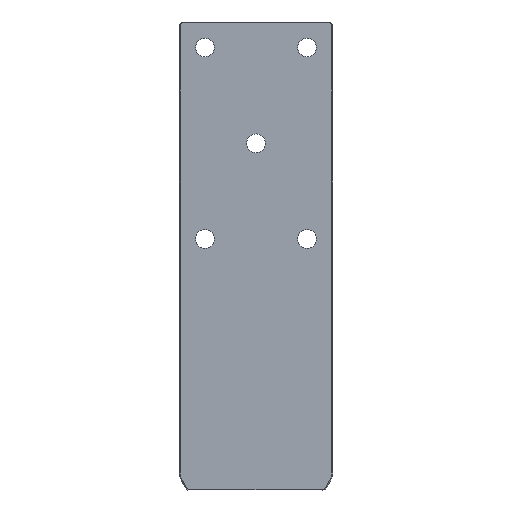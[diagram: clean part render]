
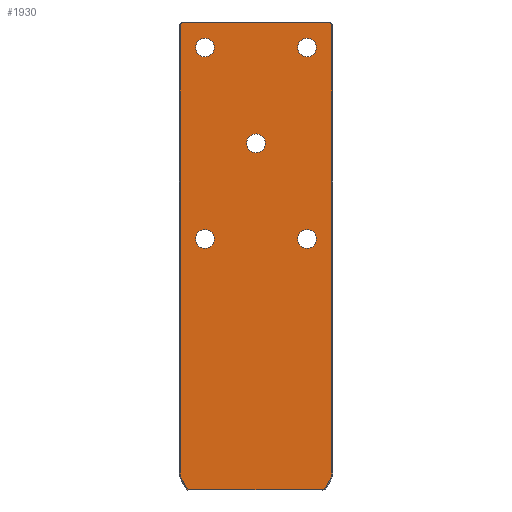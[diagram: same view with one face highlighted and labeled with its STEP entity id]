
A CAD part, front view. The second image highlights one B-rep face of the part: STEP entity #1930.
In plain terms, the highlighted planar face has unit normal (0, -1, 0).
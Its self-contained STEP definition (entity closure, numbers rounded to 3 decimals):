
#135=VERTEX_POINT(' ',#136);
#136=CARTESIAN_POINT('',(60.,-55.,-266.));
#137=VERTEX_POINT(' ',#138);
#138=CARTESIAN_POINT('',(60.,-55.,-244.));
#143=VERTEX_POINT(' ',#144);
#144=CARTESIAN_POINT('',(-60.,-55.,-41.));
#145=VERTEX_POINT(' ',#146);
#146=CARTESIAN_POINT('',(-60.,-55.,-19.));
#151=VERTEX_POINT(' ',#152);
#152=CARTESIAN_POINT('',(60.,-55.,-41.));
#153=VERTEX_POINT(' ',#154);
#154=CARTESIAN_POINT('',(60.,-55.,-19.));
#159=VERTEX_POINT(' ',#160);
#160=CARTESIAN_POINT('',(-60.,-55.,-266.));
#161=VERTEX_POINT(' ',#162);
#162=CARTESIAN_POINT('',(-60.,-55.,-244.));
#167=VERTEX_POINT(' ',#168);
#168=CARTESIAN_POINT('',(0.,-55.,-153.5));
#169=VERTEX_POINT(' ',#170);
#170=CARTESIAN_POINT('',(0.,-55.,-131.5));
#253=VERTEX_POINT(' ',#254);
#254=CARTESIAN_POINT('',(80.185,-55.,-550.));
#255=VERTEX_POINT(' ',#256);
#256=CARTESIAN_POINT('',(86.454,-55.,-539.141));
#257=VERTEX_POINT(' ',#258);
#258=CARTESIAN_POINT('',(89.,-55.,-529.641));
#259=VERTEX_POINT(' ',#260);
#260=CARTESIAN_POINT('',(89.,-55.,-300.));
#261=VERTEX_POINT(' ',#262);
#262=CARTESIAN_POINT('',(89.,-55.,-3.414));
#265=VERTEX_POINT(' ',#266);
#266=CARTESIAN_POINT('',(86.586,-55.,-1.));
#269=VERTEX_POINT(' ',#270);
#270=CARTESIAN_POINT('',(-86.586,-55.,-1.));
#273=VERTEX_POINT(' ',#274);
#274=CARTESIAN_POINT('',(-89.,-55.,-3.414));
#283=VERTEX_POINT(' ',#284);
#284=CARTESIAN_POINT('',(-80.185,-55.,-550.));
#285=VERTEX_POINT(' ',#286);
#286=CARTESIAN_POINT('',(-89.,-55.,-300.));
#287=VERTEX_POINT(' ',#288);
#288=CARTESIAN_POINT('',(-89.,-55.,-529.641));
#289=VERTEX_POINT(' ',#290);
#290=CARTESIAN_POINT('',(-86.454,-55.,-539.141));
#291=CIRCLE('',#292,11.);
#292=AXIS2_PLACEMENT_3D('',#293,#294,#295);
#293=CARTESIAN_POINT('',(60.,-55.,-255.));
#294=DIRECTION('',(0.,-1.,0.));
#295=DIRECTION('',(-1.,0.,0.));
#296=EDGE_CURVE(' ',#135,#137,#291,.T.);
#313=CIRCLE('',#314,11.);
#314=AXIS2_PLACEMENT_3D('',#315,#316,#317);
#315=CARTESIAN_POINT('',(60.,-55.,-255.));
#316=DIRECTION('',(0.,-1.,0.));
#317=DIRECTION('',(1.,0.,0.));
#318=EDGE_CURVE(' ',#137,#135,#313,.T.);
#325=CIRCLE('',#326,11.);
#326=AXIS2_PLACEMENT_3D('',#327,#328,#329);
#327=CARTESIAN_POINT('',(-60.,-55.,-30.));
#328=DIRECTION('',(0.,-1.,0.));
#329=DIRECTION('',(-1.,0.,0.));
#330=EDGE_CURVE(' ',#143,#145,#325,.T.);
#347=CIRCLE('',#348,11.);
#348=AXIS2_PLACEMENT_3D('',#349,#350,#351);
#349=CARTESIAN_POINT('',(-60.,-55.,-30.));
#350=DIRECTION('',(0.,-1.,0.));
#351=DIRECTION('',(1.,0.,0.));
#352=EDGE_CURVE(' ',#145,#143,#347,.T.);
#359=CIRCLE('',#360,11.);
#360=AXIS2_PLACEMENT_3D('',#361,#362,#363);
#361=CARTESIAN_POINT('',(60.,-55.,-30.));
#362=DIRECTION('',(0.,1.,0.));
#363=DIRECTION('',(-1.,0.,0.));
#364=EDGE_CURVE(' ',#151,#153,#359,.F.);
#381=CIRCLE('',#382,11.);
#382=AXIS2_PLACEMENT_3D('',#383,#384,#385);
#383=CARTESIAN_POINT('',(60.,-55.,-30.));
#384=DIRECTION('',(0.,1.,0.));
#385=DIRECTION('',(1.,0.,0.));
#386=EDGE_CURVE(' ',#153,#151,#381,.F.);
#393=CIRCLE('',#394,11.);
#394=AXIS2_PLACEMENT_3D('',#395,#396,#397);
#395=CARTESIAN_POINT('',(-60.,-55.,-255.));
#396=DIRECTION('',(0.,1.,0.));
#397=DIRECTION('',(-1.,0.,0.));
#398=EDGE_CURVE(' ',#159,#161,#393,.F.);
#415=CIRCLE('',#416,11.);
#416=AXIS2_PLACEMENT_3D('',#417,#418,#419);
#417=CARTESIAN_POINT('',(-60.,-55.,-255.));
#418=DIRECTION('',(0.,1.,0.));
#419=DIRECTION('',(1.,0.,0.));
#420=EDGE_CURVE(' ',#161,#159,#415,.F.);
#427=CIRCLE('',#428,11.);
#428=AXIS2_PLACEMENT_3D('',#429,#430,#431);
#429=CARTESIAN_POINT('',(0.,-55.,-142.5));
#430=DIRECTION('',(0.,1.,0.));
#431=DIRECTION('',(-1.,0.,0.));
#432=EDGE_CURVE(' ',#167,#169,#427,.F.);
#449=CIRCLE('',#450,11.);
#450=AXIS2_PLACEMENT_3D('',#451,#452,#453);
#451=CARTESIAN_POINT('',(0.,-55.,-142.5));
#452=DIRECTION('',(0.,1.,0.));
#453=DIRECTION('',(1.,0.,0.));
#454=EDGE_CURVE(' ',#169,#167,#449,.F.);
#846=LINE('',#847,#848);
#847=CARTESIAN_POINT('',(86.454,-55.,-539.141));
#848=VECTOR('',#849,1.);
#849=DIRECTION('',(-0.5,0.,-0.866));
#850=EDGE_CURVE(' ',#255,#253,#846,.T.);
#856=CIRCLE('',#857,19.);
#857=AXIS2_PLACEMENT_3D('',#858,#859,#860);
#858=CARTESIAN_POINT('',(70.,-55.,-529.641));
#859=DIRECTION('',(0.,1.,0.));
#860=DIRECTION('',(-0.966,0.,0.259));
#861=EDGE_CURVE(' ',#257,#255,#856,.T.);
#867=LINE('',#868,#869);
#868=CARTESIAN_POINT('',(89.,-55.,-300.));
#869=VECTOR('',#870,1.);
#870=DIRECTION('',(0.,0.,-1.));
#871=EDGE_CURVE(' ',#259,#257,#867,.T.);
#877=LINE('',#878,#879);
#878=CARTESIAN_POINT('',(89.,-55.,2.657));
#879=VECTOR('',#880,1.);
#880=DIRECTION('',(0.,0.,-1.));
#881=EDGE_CURVE(' ',#261,#259,#877,.T.);
#897=LINE('',#898,#899);
#898=CARTESIAN_POINT('',(82.293,-55.,3.293));
#899=VECTOR('',#900,1.);
#900=DIRECTION('',(0.707,0.,-0.707));
#901=EDGE_CURVE(' ',#265,#261,#897,.T.);
#917=LINE('',#918,#919);
#918=CARTESIAN_POINT('',(-92.657,-55.,-1.));
#919=VECTOR('',#920,1.);
#920=DIRECTION('',(1.,0.,0.));
#921=EDGE_CURVE(' ',#269,#265,#917,.T.);
#937=LINE('',#938,#939);
#938=CARTESIAN_POINT('',(-93.293,-55.,-7.707));
#939=VECTOR('',#940,1.);
#940=DIRECTION('',(0.707,0.,0.707));
#941=EDGE_CURVE(' ',#273,#269,#937,.T.);
#988=LINE('',#989,#990);
#989=CARTESIAN_POINT('',(-90.12,-55.,-550.));
#990=VECTOR('',#991,1.);
#991=DIRECTION('',(1.,0.,0.));
#992=EDGE_CURVE(' ',#253,#283,#988,.F.);
#993=LINE('',#994,#995);
#994=CARTESIAN_POINT('',(-89.,-55.,-300.));
#995=VECTOR('',#996,1.);
#996=DIRECTION('',(0.,0.,1.));
#997=EDGE_CURVE(' ',#285,#273,#993,.T.);
#998=LINE('',#999,#1000);
#999=CARTESIAN_POINT('',(-89.,-55.,-529.641));
#1000=VECTOR('',#1001,1.);
#1001=DIRECTION('',(0.,0.,1.));
#1002=EDGE_CURVE(' ',#287,#285,#998,.T.);
#1003=CIRCLE('',#1004,19.);
#1004=AXIS2_PLACEMENT_3D('',#1005,#1006,#1007);
#1005=CARTESIAN_POINT('',(-70.,-55.,-529.641));
#1006=DIRECTION('',(0.,1.,0.));
#1007=DIRECTION('',(0.966,0.,0.259));
#1008=EDGE_CURVE(' ',#289,#287,#1003,.T.);
#1009=LINE('',#1010,#1011);
#1010=CARTESIAN_POINT('',(-77.645,-55.,-554.399));
#1011=VECTOR('',#1012,1.);
#1012=DIRECTION('',(-0.5,0.,0.866));
#1013=EDGE_CURVE(' ',#283,#289,#1009,.T.);
#1891=ORIENTED_EDGE('',*,*,#997,.F.);
#1892=ORIENTED_EDGE('',*,*,#1002,.F.);
#1893=ORIENTED_EDGE('',*,*,#1008,.F.);
#1894=ORIENTED_EDGE('',*,*,#1013,.F.);
#1895=ORIENTED_EDGE('',*,*,#992,.F.);
#1896=ORIENTED_EDGE('',*,*,#850,.F.);
#1897=ORIENTED_EDGE('',*,*,#861,.F.);
#1898=ORIENTED_EDGE('',*,*,#871,.F.);
#1899=ORIENTED_EDGE('',*,*,#881,.F.);
#1900=ORIENTED_EDGE('',*,*,#901,.F.);
#1901=ORIENTED_EDGE('',*,*,#921,.F.);
#1902=ORIENTED_EDGE('',*,*,#941,.F.);
#1903=EDGE_LOOP('',(#1891,#1892,#1893,#1894,#1895,#1896,#1897,#1898,#1899,#1900,#1901,#1902));
#1904=FACE_OUTER_BOUND('',#1903,.T.);
#1905=ORIENTED_EDGE('',*,*,#454,.F.);
#1906=ORIENTED_EDGE('',*,*,#432,.F.);
#1907=EDGE_LOOP('',(#1905,#1906));
#1908=FACE_BOUND('',#1907,.T.);
#1909=ORIENTED_EDGE('',*,*,#420,.F.);
#1910=ORIENTED_EDGE('',*,*,#398,.F.);
#1911=EDGE_LOOP('',(#1909,#1910));
#1912=FACE_BOUND('',#1911,.T.);
#1913=ORIENTED_EDGE('',*,*,#386,.F.);
#1914=ORIENTED_EDGE('',*,*,#364,.F.);
#1915=EDGE_LOOP('',(#1913,#1914));
#1916=FACE_BOUND('',#1915,.T.);
#1917=ORIENTED_EDGE('',*,*,#352,.F.);
#1918=ORIENTED_EDGE('',*,*,#330,.F.);
#1919=EDGE_LOOP('',(#1917,#1918));
#1920=FACE_BOUND('',#1919,.T.);
#1921=ORIENTED_EDGE('',*,*,#318,.F.);
#1922=ORIENTED_EDGE('',*,*,#296,.F.);
#1923=EDGE_LOOP('',(#1921,#1922));
#1924=FACE_BOUND('',#1923,.T.);
#1925=PLANE('',#1926);
#1926=AXIS2_PLACEMENT_3D('',#1927,#1928,#1929);
#1927=CARTESIAN_POINT('',(0.,-55.,0.));
#1928=DIRECTION('',(0.,-1.,0.));
#1929=DIRECTION('',(0.,0.,-1.));
#1930=ADVANCED_FACE('',(#1904,#1908,#1912,#1916,#1920,#1924),#1925,.T.);
